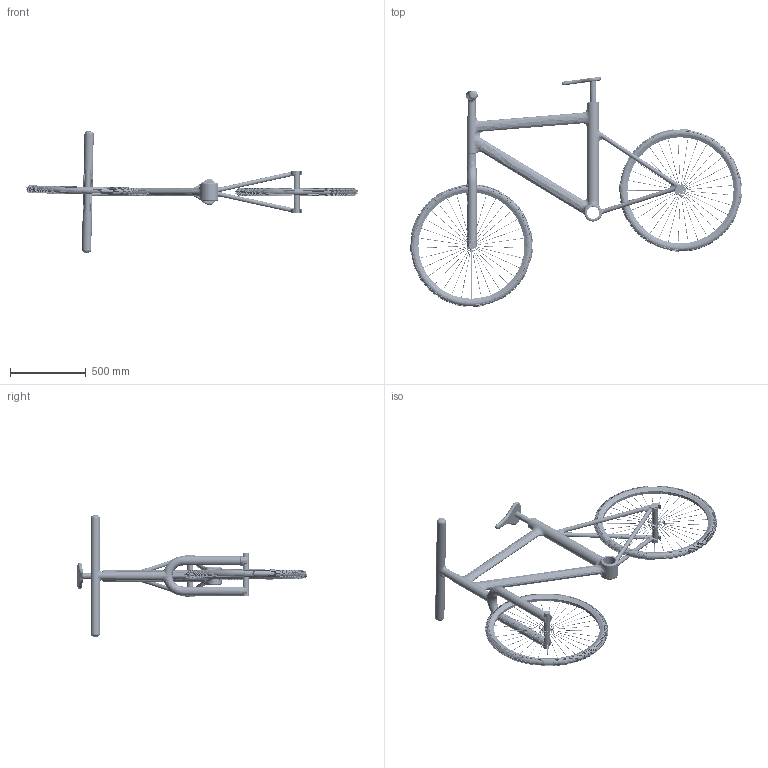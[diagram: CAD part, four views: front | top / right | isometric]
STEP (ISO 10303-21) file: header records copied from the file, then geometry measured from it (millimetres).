
FILE_DESCRIPTION (( 'STEP AP203' ), '1' );
FILE_NAME ('Velo_complet.STEP', '2018-02-02T15:14:13', ( '' ), ( '' ), 'SwSTEP 2.0', 'SolidWorks 2017', '' );
FILE_SCHEMA (( 'CONFIG_CONTROL_DESIGN' ));
Products named in the file (6): Roue_AR; Roue_AV; fourche; velo_cadre; Selle; Velo_complet
Assembly tree (5 placements, depth 2):
  Velo_complet
    velo_cadre
    Roue_AR
    Selle
    fourche
    Roue_AV
Bounding box: 2189.08 x 1518.04 x 800.28 mm (x, y, z)
Volume: 17305052.1 mm3; surface area: 3677366.7 mm2
Topology: 7 solids, 13 shells, 21327 faces, 61488 edges, 40962 vertices
Faces by surface type: cone 18008, plane 2264, cylinder 950, bspline 71, torus 34
Entity records: 729056 total; most frequent: CARTESIAN_POINT 146844, DIRECTION 125538, ORIENTED_EDGE 122976, EDGE_CURVE 61488, AXIS2_PLACEMENT_3D 43204, VERTEX_POINT 40962, VECTOR 39130, LINE 39130
